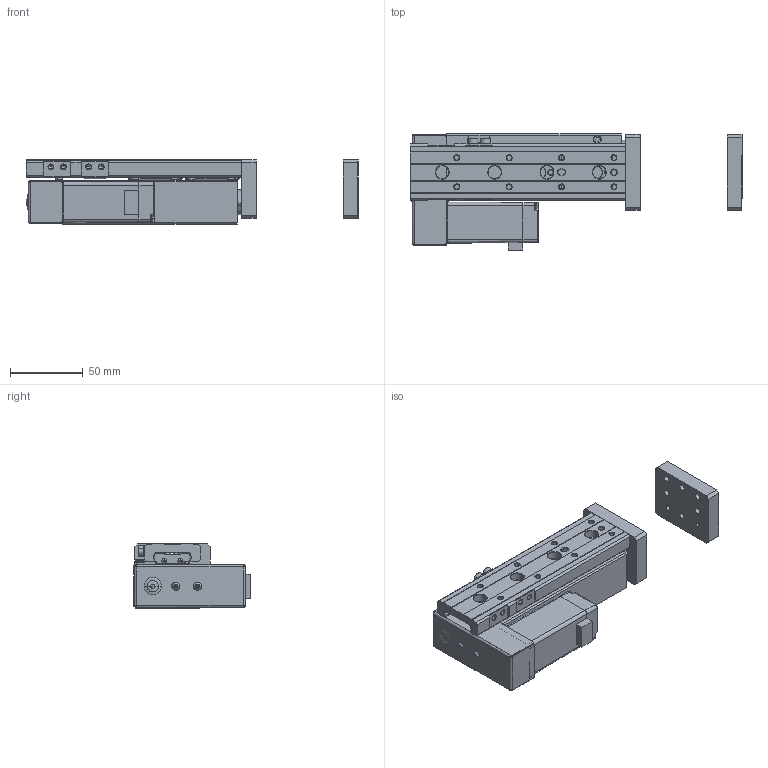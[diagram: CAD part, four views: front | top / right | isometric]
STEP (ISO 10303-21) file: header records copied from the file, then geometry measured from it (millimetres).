
FILE_DESCRIPTION (( 'STEP AP203' ), '1' );
FILE_NAME ('CSS12L-xx-70-xx-CSO-xx-xx.STEP', '2024-10-18T05:57:50', ( 'Windows User' ), ( 'P R C' ), 'SwSTEP 2.0', 'SolidWorks 2018', '' );
FILE_SCHEMA (( 'CONFIG_CONTROL_DESIGN' ));
Length unit declared in the file: millimetre
Products named in the file (18): CSS12L-xx-70-xx-CSO-xx-xx; 复件 内六角圆头螺钉M3^SS12L-1.5-70（客用）; 复件 内六角杯头螺钉M4-10^SS12L-1.5-70（客用）; 复件 内六角杯头螺钉M3-6^SS12L-1.5-70（客用）; 复件 内六角杯头螺钉M4-8^SS12L-1.5-70（客用）; 复件 RB-WS22015-B003-02  BLOCK（MXQ12-75,100滑块组件装配体）^SS12L-1.5-70（客用）; 复件 COVER END^SS12L-1.5-70（客用）; 复件 RB-ES23002-P007-01  限位块^SS12L-1.5-70（客用）; 复件 RB-WS22015-B003-01  RAIL（MXQ12-75-滑台）^SS12L-1.5-70（客用）; 复件 RB-WS22015-P002  安装板^SS12L-1.5-70（客用）; 复件 销钉3-7^SS12L-1.5-70（客用）; 复件 (2) 28闭环步进电机-客用3D^SS12L-1.5-70（客用）; 复件 内六角杯头螺钉M4-12^SS12L-1.5-70（客用）; 复件 十字槽盘头螺钉YM3-6^SS12L-1.5-70（客用）; 复件 MOTOR PLATE^SS12L-1.5-70（客用）; 复件 RB-WS22015-P001-04  FRAME（ST=70）^SS12L-1.5-70（客用）; 复件 RB-ES23002-B010  堵头塞子（φ8T型）^SS12L-1.5-70（客用）; 复件 RB-WS22015-P006  连接件^SS12L-1.5-70（客用）
Assembly tree (26 placements, depth 2):
  CSS12L-xx-70-xx-CSO-xx-xx
    复件 RB-WS22015-P001-04  FRAME（ST=70）^SS12L-1.5-70（客用）
    复件 RB-WS22015-P002  安装板^SS12L-1.5-70（客用）  x2
    复件 RB-WS22015-P006  连接件^SS12L-1.5-70（客用）
    复件 RB-WS22015-B003-01  RAIL（MXQ12-75-滑台）^SS12L-1.5-70（客用）
    复件 RB-WS22015-B003-02  BLOCK（MXQ12-75,100滑块组件装配体）^SS12L-1.5-70（客用）  x2
    复件 内六角杯头螺钉M4-12^SS12L-1.5-70（客用）  x2
    复件 内六角杯头螺钉M4-10^SS12L-1.5-70（客用）
    复件 十字槽盘头螺钉YM3-6^SS12L-1.5-70（客用）
    复件 销钉3-7^SS12L-1.5-70（客用）  x4
    复件 内六角杯头螺钉M4-8^SS12L-1.5-70（客用）  x2
    复件 内六角杯头螺钉M3-6^SS12L-1.5-70（客用）  x2
    复件 RB-ES23002-P007-01  限位块^SS12L-1.5-70（客用）
    复件 RB-ES23002-B010  堵头塞子（φ8T型）^SS12L-1.5-70（客用）
    复件 (2) 28闭环步进电机-客用3D^SS12L-1.5-70（客用）
    复件 COVER END^SS12L-1.5-70（客用）
    复件 MOTOR PLATE^SS12L-1.5-70（客用）
    复件 内六角圆头螺钉M3^SS12L-1.5-70（客用）  x2
Bounding box: 228.15 x 79.95 x 44 mm (x, y, z)
Volume: 322389.2 mm3; surface area: 98475 mm2
Topology: 88 solids, 88 shells, 1877 faces, 4721 edges, 2837 vertices
Faces by surface type: plane 833, cylinder 516, cone 342, bspline 146, torus 34, sphere 6
Entity records: 38704 total; most frequent: CARTESIAN_POINT 8670, DIRECTION 5911, ORIENTED_EDGE 5674, EDGE_CURVE 2837, AXIS2_PLACEMENT_3D 2141, VERTEX_POINT 1801, LINE 1629, VECTOR 1629
